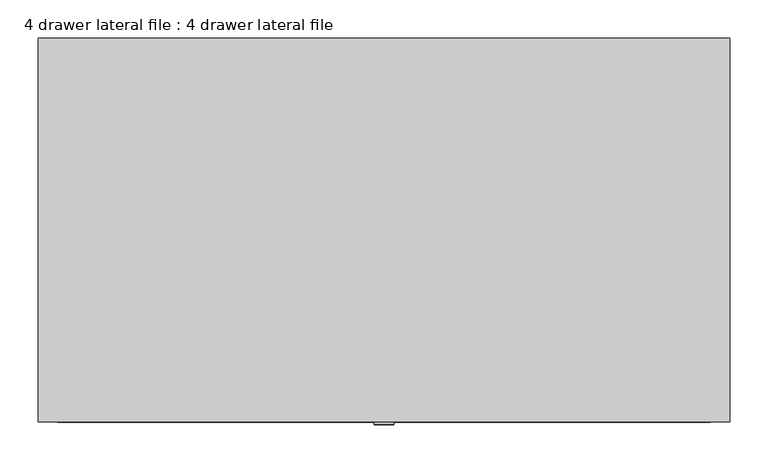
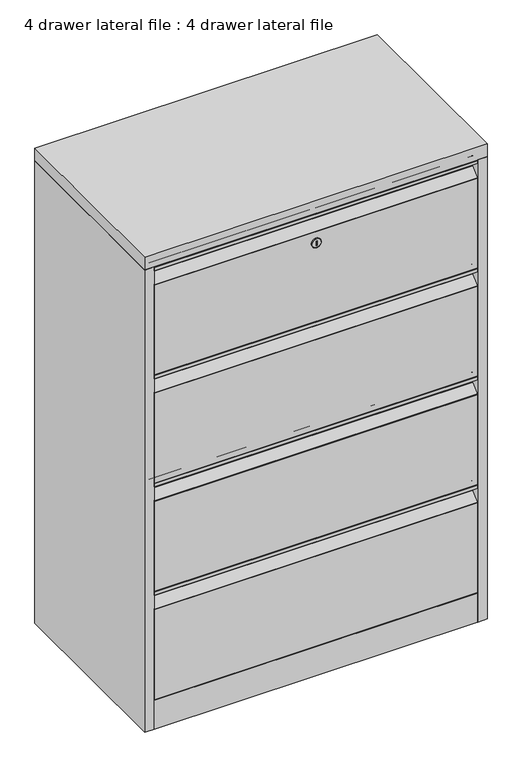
"""IFC4 building model written with IfcOpenShell, lengths in millimetres: furniture geometry, 4 drawer lateral file : 4 drawer lateral file."""

from ifc_helpers import new_model, si_unit, point, frame, frame_2d, origin, origin_with_axes, place, context, project, spatial, polyline, circle_curve, ellipse_curve, trimmed, segment, composite_curve, outline, extrude, source, transform, mapped, element, save
from ifc_brep_helpers import plane_surface, cylinder_surface, revolved_surface, advanced_brep


def furniture_4_drawer_lateral_file_4_drawer_lateral_file_b16b4bcb(model_context):
    return source(origin(), model_context, "Body", "SolidModel", [
        extrude(outline(composite_curve([segment(polyline([(-225.0, 1284.6125), (-225.0, 1255.9858613)]), True, "CONTINUOUS"), segment(trimmed(circle_curve(frame_2d((-228.1021897, 1255.9858613)), 3.1021897), [point((-225.0, 1255.9858613))], [point((-226.0167258, 1253.6892504))], False, "CARTESIAN"), True, "CONTINUOUS"), segment(polyline([(-226.0167258, 1253.6892504), (-247.3097129, 1234.353909)]), True, "CONTINUOUS"), segment(trimmed(circle_curve(frame_2d((-245.8938261, 1232.7946678)), 2.1061739), [point((-247.3097129, 1234.353909))], [point((-248.0, 1232.7946678))], True, "CARTESIAN"), True, "CONTINUOUS"), segment(polyline([(-248.0, 1232.7946678), (-248.0, 986.6625), (-225.0, 986.6625), (-225.0, 984.6625), (-250.0, 984.6625), (-250.0, 1233.806395)]), True, "CONTINUOUS"), segment(trimmed(circle_curve(frame_2d((-248.1791457, 1233.806395)), 1.8208543), [point((-250.0, 1233.806395))], [point((-249.4032249, 1235.1544085))], False, "CARTESIAN"), True, "CONTINUOUS"), segment(polyline([(-249.4032249, 1235.1544085), (-227.5662702, 1254.983706)]), True, "CONTINUOUS"), segment(trimmed(circle_curve(frame_2d((-228.727779, 1256.2628141)), 1.727779), [point((-227.5662702, 1254.983706))], [point((-227.0, 1256.2628141))], True, "CARTESIAN"), True, "CONTINUOUS"), segment(polyline([(-227.0, 1256.2628141), (-227.0, 1280.5749619)]), True, "CONTINUOUS"), segment(trimmed(circle_curve(frame_2d((-229.0375381, 1280.5749619)), 2.0375381), [point((-227.0, 1280.5749619))], [point((-229.0375381, 1282.6125))], True, "CARTESIAN"), True, "CONTINUOUS"), segment(polyline([(-229.0375381, 1282.6125), (-248.0, 1282.6125), (-248.0, 1274.6125), (-250.0, 1274.6125), (-250.0, 1282.7519549)]), True, "CONTINUOUS"), segment(trimmed(circle_curve(frame_2d((-248.1394549, 1282.7519549)), 1.8605451), [point((-250.0, 1282.7519549))], [point((-248.1394549, 1284.6125))], False, "CARTESIAN"), True, "CONTINUOUS"), segment(polyline([(-248.1394549, 1284.6125), (-225.0, 1284.6125)]), True, "CONTINUOUS")], self_intersect=False)), frame((-425.0, 0.0, 0.0), z_axis=(1.0, 0.0, 0.0), x_axis=(0.0, 1.0, 0.0)), (0.0, 0.0, 1.0), 850.0),
        extrude(outline(composite_curve([segment(polyline([(-225.0, 983.875), (-225.0, 955.2483613)]), True, "CONTINUOUS"), segment(trimmed(circle_curve(frame_2d((-228.1021897, 955.2483613)), 3.1021897), [point((-225.0, 955.2483613))], [point((-226.0167258, 952.9517504))], False, "CARTESIAN"), True, "CONTINUOUS"), segment(polyline([(-226.0167258, 952.9517504), (-247.3097129, 933.616409)]), True, "CONTINUOUS"), segment(trimmed(circle_curve(frame_2d((-245.8938261, 932.0571678)), 2.1061739), [point((-247.3097129, 933.616409))], [point((-248.0, 932.0571678))], True, "CARTESIAN"), True, "CONTINUOUS"), segment(polyline([(-248.0, 932.0571678), (-248.0, 685.925), (-225.0, 685.925), (-225.0, 683.925), (-250.0, 683.925), (-250.0, 933.068895)]), True, "CONTINUOUS"), segment(trimmed(circle_curve(frame_2d((-248.1791457, 933.068895)), 1.8208543), [point((-250.0, 933.068895))], [point((-249.4032249, 934.4169085))], False, "CARTESIAN"), True, "CONTINUOUS"), segment(polyline([(-249.4032249, 934.4169085), (-227.5662702, 954.246206)]), True, "CONTINUOUS"), segment(trimmed(circle_curve(frame_2d((-228.727779, 955.5253141)), 1.727779), [point((-227.5662702, 954.246206))], [point((-227.0, 955.5253141))], True, "CARTESIAN"), True, "CONTINUOUS"), segment(polyline([(-227.0, 955.5253141), (-227.0, 979.8374619)]), True, "CONTINUOUS"), segment(trimmed(circle_curve(frame_2d((-229.0375381, 979.8374619)), 2.0375381), [point((-227.0, 979.8374619))], [point((-229.0375381, 981.875))], True, "CARTESIAN"), True, "CONTINUOUS"), segment(polyline([(-229.0375381, 981.875), (-248.0, 981.875), (-248.0, 973.875), (-250.0, 973.875), (-250.0, 982.0144549)]), True, "CONTINUOUS"), segment(trimmed(circle_curve(frame_2d((-248.1394549, 982.0144549)), 1.8605451), [point((-250.0, 982.0144549))], [point((-248.1394549, 983.875))], False, "CARTESIAN"), True, "CONTINUOUS"), segment(polyline([(-248.1394549, 983.875), (-225.0, 983.875)]), True, "CONTINUOUS")], self_intersect=False)), frame((-425.0, 0.0, 0.0), z_axis=(1.0, 0.0, 0.0), x_axis=(0.0, 1.0, 0.0)), (0.0, 0.0, 1.0), 850.0),
        extrude(outline(composite_curve([segment(polyline([(-225.0, 683.1375), (-225.0, 654.5108613)]), True, "CONTINUOUS"), segment(trimmed(circle_curve(frame_2d((-228.1021897, 654.5108613)), 3.1021897), [point((-225.0, 654.5108613))], [point((-226.0167258, 652.2142504))], False, "CARTESIAN"), True, "CONTINUOUS"), segment(polyline([(-226.0167258, 652.2142504), (-247.3097129, 632.878909)]), True, "CONTINUOUS"), segment(trimmed(circle_curve(frame_2d((-245.8938261, 631.3196678)), 2.1061739), [point((-247.3097129, 632.878909))], [point((-248.0, 631.3196678))], True, "CARTESIAN"), True, "CONTINUOUS"), segment(polyline([(-248.0, 631.3196678), (-248.0, 385.1875), (-225.0, 385.1875), (-225.0, 383.1875), (-250.0, 383.1875), (-250.0, 632.331395)]), True, "CONTINUOUS"), segment(trimmed(circle_curve(frame_2d((-248.1791457, 632.331395)), 1.8208543), [point((-250.0, 632.331395))], [point((-249.4032249, 633.6794085))], False, "CARTESIAN"), True, "CONTINUOUS"), segment(polyline([(-249.4032249, 633.6794085), (-227.5662702, 653.508706)]), True, "CONTINUOUS"), segment(trimmed(circle_curve(frame_2d((-228.727779, 654.7878141)), 1.727779), [point((-227.5662702, 653.508706))], [point((-227.0, 654.7878141))], True, "CARTESIAN"), True, "CONTINUOUS"), segment(polyline([(-227.0, 654.7878141), (-227.0, 679.0999619)]), True, "CONTINUOUS"), segment(trimmed(circle_curve(frame_2d((-229.0375381, 679.0999619)), 2.0375381), [point((-227.0, 679.0999619))], [point((-229.0375381, 681.1375))], True, "CARTESIAN"), True, "CONTINUOUS"), segment(polyline([(-229.0375381, 681.1375), (-248.0, 681.1375), (-248.0, 673.1375), (-250.0, 673.1375), (-250.0, 681.2769549)]), True, "CONTINUOUS"), segment(trimmed(circle_curve(frame_2d((-248.1394549, 681.2769549)), 1.8605451), [point((-250.0, 681.2769549))], [point((-248.1394549, 683.1375))], False, "CARTESIAN"), True, "CONTINUOUS"), segment(polyline([(-248.1394549, 683.1375), (-225.0, 683.1375)]), True, "CONTINUOUS")], self_intersect=False)), frame((-425.0, 0.0, 0.0), z_axis=(1.0, 0.0, 0.0), x_axis=(0.0, 1.0, 0.0)), (0.0, 0.0, 1.0), 850.0),
        extrude(outline(composite_curve([segment(polyline([(-225.0, 382.0), (-225.0, 353.3733613)]), True, "CONTINUOUS"), segment(trimmed(circle_curve(frame_2d((-228.1021897, 353.3733613)), 3.1021897), [point((-225.0, 353.3733613))], [point((-226.0167258, 351.0767504))], False, "CARTESIAN"), True, "CONTINUOUS"), segment(polyline([(-226.0167258, 351.0767504), (-247.3097129, 331.741409)]), True, "CONTINUOUS"), segment(trimmed(circle_curve(frame_2d((-245.8938261, 330.1821678)), 2.1061739), [point((-247.3097129, 331.741409))], [point((-248.0, 330.1821678))], True, "CARTESIAN"), True, "CONTINUOUS"), segment(polyline([(-248.0, 330.1821678), (-248.0, 84.05), (-225.0, 84.05), (-225.0, 82.05), (-250.0, 82.05), (-250.0, 331.193895)]), True, "CONTINUOUS"), segment(trimmed(circle_curve(frame_2d((-248.1791457, 331.193895)), 1.8208543), [point((-250.0, 331.193895))], [point((-249.4032249, 332.5419085))], False, "CARTESIAN"), True, "CONTINUOUS"), segment(polyline([(-249.4032249, 332.5419085), (-227.5662702, 352.371206)]), True, "CONTINUOUS"), segment(trimmed(circle_curve(frame_2d((-228.727779, 353.6503141)), 1.727779), [point((-227.5662702, 352.371206))], [point((-227.0, 353.6503141))], True, "CARTESIAN"), True, "CONTINUOUS"), segment(polyline([(-227.0, 353.6503141), (-227.0, 377.9624619)]), True, "CONTINUOUS"), segment(trimmed(circle_curve(frame_2d((-229.0375381, 377.9624619)), 2.0375381), [point((-227.0, 377.9624619))], [point((-229.0375381, 380.0))], True, "CARTESIAN"), True, "CONTINUOUS"), segment(polyline([(-229.0375381, 380.0), (-248.0, 380.0), (-248.0, 372.0), (-250.0, 372.0), (-250.0, 380.1394549)]), True, "CONTINUOUS"), segment(trimmed(circle_curve(frame_2d((-248.1394549, 380.1394549)), 1.8605451), [point((-250.0, 380.1394549))], [point((-248.1394549, 382.0))], False, "CARTESIAN"), True, "CONTINUOUS"), segment(polyline([(-248.1394549, 382.0), (-225.0, 382.0)]), True, "CONTINUOUS")], self_intersect=False)), frame((-425.0, 0.0, 0.0), z_axis=(1.0, 0.0, 0.0), x_axis=(0.0, 1.0, 0.0)), (0.0, 0.0, 1.0), 850.0),
        extrude(outline(polyline([(1.0273848, -250.0), (-0.9726152, -250.0), (-0.9726152, -150.0), (1.0273848, -150.0), (1.0273848, -250.0)])), frame((0.0, 0.0, 1198.1206655), z_axis=(0.0, 0.0, 1.0), x_axis=(1.0, 0.0, 0.0)), (0.0, 0.0, 1.0), 12.0),
        advanced_brep(
        [(-11.5526635, -254.0, 1204.0526635), (11.5526635, -254.0, 1204.0526635), (1.0273848, -254.0, 1210.1206655), (1.0273848, -254.0, 1198.1206655), (-0.9726152, -254.0, 1198.1206655), (-0.9726152, -254.0, 1210.1206655), (-12.5526635, -250.0, 1204.0526635), (12.5526635, -250.0, 1204.0526635), (1.0273848, -250.0, 1210.1206655), (-0.9726152, -250.0, 1210.1206655), (-0.9726152, -250.0, 1198.1206655), (1.0273848, -250.0, 1198.1206655), (12.5526635, -253.0, 1204.0526635), (-12.5526635, -253.0, 1204.0526635)],
        [
            (0, 1, circle_curve(frame((0.0, -254.0, 1204.0526635), z_axis=(0.0, -1.0, 0.0), x_axis=(1.0, 0.0, 0.0)), 11.5526635)),
            (1, 0, circle_curve(frame((0.0, -254.0, 1204.0526635), z_axis=(0.0, -1.0, 0.0), x_axis=(-1.0, 0.0, 0.0)), 11.5526635)),
            (2, 3),
            (3, 4),
            (4, 5),
            (5, 2),
            (6, 7, circle_curve(frame((0.0, -250.0, 1204.0526635), z_axis=(0.0, 1.0, 0.0), x_axis=(1.0, 0.0, 0.0)), 12.5526635)),
            (7, 6, circle_curve(frame((0.0, -250.0, 1204.0526635), z_axis=(0.0, 1.0, 0.0), x_axis=(1.0, 0.0, 0.0)), 12.5526635)),
            (8, 9),
            (9, 10),
            (10, 11),
            (11, 8),
            (7, 12),
            (12, 13, circle_curve(frame((0.0, -253.0, 1204.0526635), z_axis=(0.0, 1.0, 0.0), x_axis=(1.0, 0.0, 0.0)), 12.5526635)),
            (13, 6),
            (13, 12, circle_curve(frame((0.0, -253.0, 1204.0526635), z_axis=(0.0, 1.0, 0.0), x_axis=(1.0, 0.0, 0.0)), 12.5526635)),
            (2, 8),
            (11, 3),
            (10, 4),
            (9, 5),
            (0, 13, circle_curve(frame((-11.5526635, -253.0, 1204.0526635), z_axis=(0.0, 0.0, -1.0), x_axis=(-1.0, 0.0, 0.0)), 1.0)),
            (12, 1, circle_curve(frame((11.5526635, -253.0, 1204.0526635), z_axis=(0.0, 0.0, -1.0), x_axis=(1.0, 0.0, 0.0)), 1.0)),
        ],
        [
            plane_surface(frame((12.5526635, -254.0, 1204.0526635), z_axis=(0.0, -1.0, 0.0), x_axis=(0.0, 0.0, 1.0))),
            plane_surface(frame((12.5526635, -250.0, 1204.0526635), z_axis=(0.0, 1.0, 0.0), x_axis=(0.0, 0.0, -1.0))),
            cylinder_surface(frame((0.0, -250.0, 1204.0526635), z_axis=(0.0, -1.0, 0.0), x_axis=(1.0, 0.0, 0.0)), 12.5526635),
            plane_surface(frame((1.0273848, -254.0, 1210.1206655), z_axis=(-1.0, 0.0, 0.0), x_axis=(0.0, 1.0, 0.0))),
            plane_surface(frame((1.0273848, -254.0, 1198.1206655), z_axis=(0.0, 0.0, 1.0), x_axis=(0.0, 1.0, 0.0))),
            plane_surface(frame((-0.9726152, -254.0, 1198.1206655), z_axis=(1.0, 0.0, 0.0), x_axis=(0.0, 1.0, 0.0))),
            plane_surface(frame((-0.9726152, -254.0, 1210.1206655), z_axis=(0.0, 0.0, -1.0), x_axis=(0.0, 1.0, 0.0))),
            revolved_surface(trimmed(ellipse_curve(frame((11.5526635, -253.0, 1204.0526635), z_axis=(0.0, 0.0, 1.0), x_axis=(1.0, 0.0, 0.0)), 1.0, 1.0), [point((11.5526635, -254.0, 1204.0526635))], [point((12.5526635, -253.0, 1204.0526635))], True, "CARTESIAN"), (0.0, -254.0, 1204.0526635), (0.0, 1.0, 0.0)),
            revolved_surface(trimmed(ellipse_curve(frame((-11.5526635, -253.0, 1204.0526635), z_axis=(0.0, 0.0, -1.0), x_axis=(-1.0, 0.0, 0.0)), 1.0, 1.0), [point((-11.5526635, -254.0, 1204.0526635))], [point((-12.5526635, -253.0, 1204.0526635))], True, "CARTESIAN"), (0.0, -254.0, 1204.0526635), (0.0, 1.0, 0.0)),
        ],
        [
            (0, [[1, 2], [3, 4, 5, 6]]),
            (1, [[7, 8], [9, 10, 11, 12]]),
            (2, [[-8, 13, 14, 15]]),
            (2, [[-7, -15, 16, -13]]),
            (3, [[-3, 17, -12, 18]]),
            (4, [[-4, -18, -11, 19]]),
            (5, [[-5, -19, -10, 20]]),
            (6, [[-6, -20, -9, -17]]),
            (7, [[21, -14, 22, -1]]),
            (8, [[-21, -2, -22, -16]]),
        ],
    ),
        extrude(outline(polyline([(424.5, -150.0), (424.5, -250.0), (-424.5107425, -250.0), (-424.5107425, -150.0), (424.5, -150.0)])), origin_with_axes(), (0.0, 0.0, 1.0), 80.0),
        extrude(outline(polyline([(425.0, -150.0), (-425.0, -150.0), (-425.0, 249.0), (425.0, 249.0), (425.0, -150.0)])), origin_with_axes(), (0.0, 0.0, 1.0), 1.0),
        extrude(outline(polyline([(-425.0, 250.0), (-425.0, -250.0), (-450.0, -250.0), (-450.0, 250.0), (-425.0, 250.0)])), origin_with_axes(), (0.0, 0.0, 1.0), 1284.6125),
        extrude(outline(polyline([(450.0, 250.0), (450.0, -250.0), (425.0, -250.0), (425.0, 250.0), (450.0, 250.0)])), origin_with_axes(), (0.0, 0.0, 1.0), 1284.6125),
        extrude(outline(polyline([(425.0, 250.0), (425.0, 249.0), (-425.0, 249.0), (-425.0, 250.0), (425.0, 250.0)])), origin_with_axes(), (0.0, 0.0, 1.0), 1285.0),
        extrude(outline(polyline([(450.0, 250.0), (450.0, -250.0), (-450.0, -250.0), (-450.0, 250.0), (450.0, 250.0)])), frame((0.0, 0.0, 1285.0), z_axis=(0.0, 0.0, 1.0), x_axis=(1.0, 0.0, 0.0)), (0.0, 0.0, 1.0), 35.0),
    ])


if __name__ == "__main__":
    model = new_model("IFC4")
    model_context = context("Model", 3, world=origin())
    ifc_project = project(units=[si_unit("LENGTHUNIT", "METRE", prefix="MILLI")], contexts=[model_context])
    site = spatial("IfcSite", under=ifc_project)
    building = spatial("IfcBuilding", under=site)
    placement = place(None, origin())
    furniture_4_drawer_lateral_file_4_drawer_lateral_file_shape = furniture_4_drawer_lateral_file_4_drawer_lateral_file_b16b4bcb(model_context)
    element("IfcFurniture", 1, ObjectType="4 drawer lateral file : 4 drawer lateral file", at=placement, inside=building, context=model_context, shape_type="MappedRepresentation", body=[
        mapped(furniture_4_drawer_lateral_file_4_drawer_lateral_file_shape, transform((0.0, 0.0, 0.0), x_axis=(1.0, 0.0, 0.0), y_axis=(0.0, 1.0, 0.0), z_axis=(0.0, 0.0, 1.0))),
    ])
    save(model, "model.ifc")
